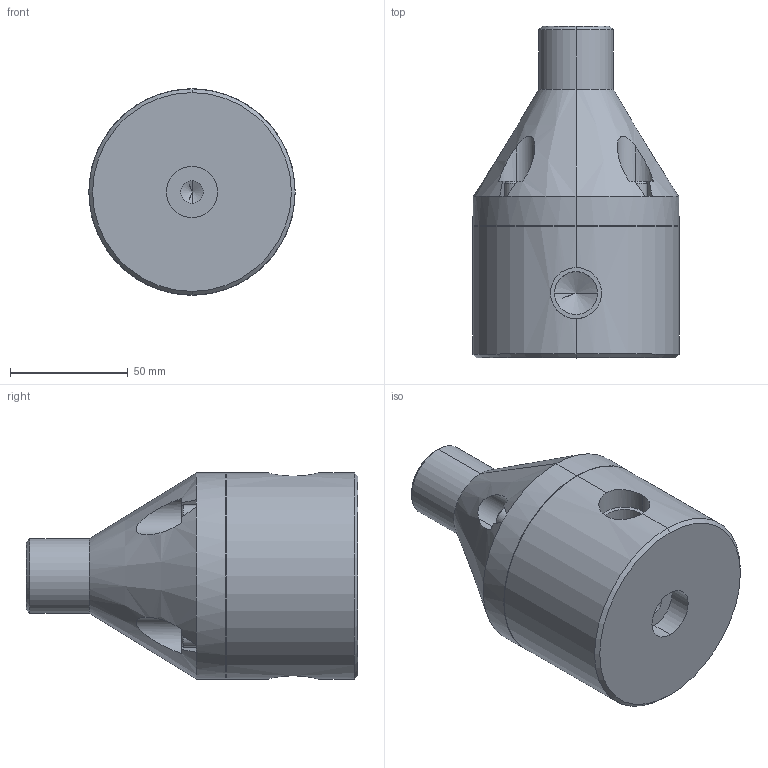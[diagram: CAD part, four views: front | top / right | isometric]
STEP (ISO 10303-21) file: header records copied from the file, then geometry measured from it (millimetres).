
FILE_DESCRIPTION (( 'STEP AP203' ), '1' );
FILE_NAME ('GPR0500-SOC.STEP', '2015-04-27T10:08:52', ( 'Dan Bernard' ), ( '' ), 'SwSTEP 2.0', 'SolidWorks 2008', '' );
FILE_SCHEMA (( 'CONFIG_CONTROL_DESIGN' ));
Length unit declared in the file: inch
Products named in the file (1): GPR0500-SOC
Bounding box: 87.63 x 140.97 x 87.63 mm (x, y, z)
Volume: 546688.6 mm3; surface area: 50309.2 mm2
Topology: 1 solids, 1 shells, 134 faces, 322 edges, 201 vertices
Faces by surface type: plane 72, cylinder 36, cone 24, torus 2
Entity records: 4308 total; most frequent: CARTESIAN_POINT 1095, DIRECTION 666, ORIENTED_EDGE 632, EDGE_CURVE 316, AXIS2_PLACEMENT_3D 237, VERTEX_POINT 201, VECTOR 192, LINE 192
